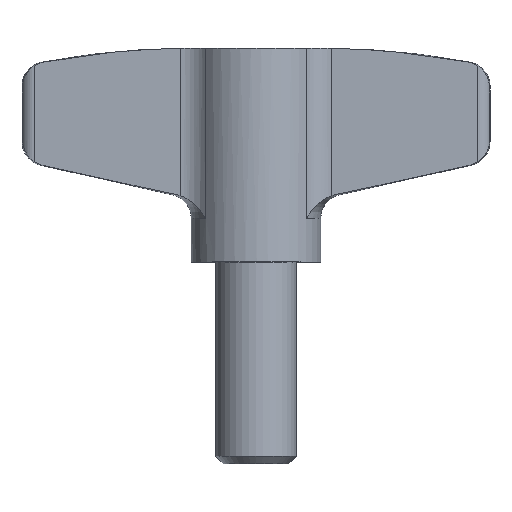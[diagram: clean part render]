
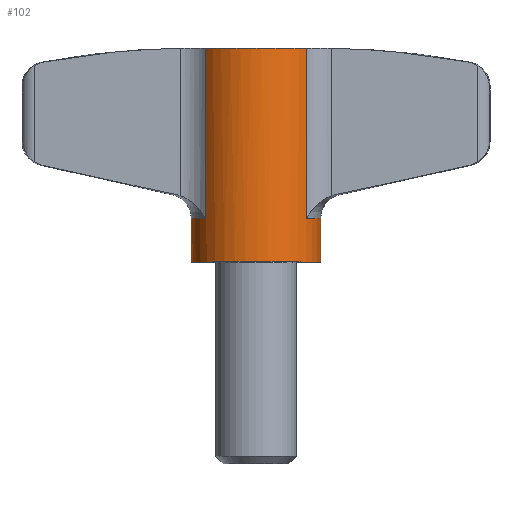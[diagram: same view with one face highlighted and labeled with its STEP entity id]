
A CAD part, top view. The second image highlights one B-rep face of the part: STEP entity #102.
In plain terms, the highlighted cylindrical face has radius 8 mm (diameter 16 mm), a full revolution.
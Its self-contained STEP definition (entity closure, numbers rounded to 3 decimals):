
#102 = ADVANCED_FACE( '', ( #163, #164 ), #165, .T. );
#163 = FACE_OUTER_BOUND( '', #271, .T. );
#164 = FACE_OUTER_BOUND( '', #272, .T. );
#165 = CYLINDRICAL_SURFACE( '', #273, 8. );
#271 = EDGE_LOOP( '', ( #477, #478, #479, #480, #481, #482, #483, #484 ) );
#272 = EDGE_LOOP( '', ( #485 ) );
#273 = AXIS2_PLACEMENT_3D( '', #486, #487, #488 );
#477 = ORIENTED_EDGE( '', *, *, #537, .T. );
#478 = ORIENTED_EDGE( '', *, *, #570, .T. );
#479 = ORIENTED_EDGE( '', *, *, #577, .F. );
#480 = ORIENTED_EDGE( '', *, *, #566, .F. );
#481 = ORIENTED_EDGE( '', *, *, #512, .T. );
#482 = ORIENTED_EDGE( '', *, *, #509, .T. );
#483 = ORIENTED_EDGE( '', *, *, #541, .F. );
#484 = ORIENTED_EDGE( '', *, *, #564, .F. );
#485 = ORIENTED_EDGE( '', *, *, #562, .T. );
#486 = CARTESIAN_POINT( '', ( 0., 26.5, 0. ) );
#487 = DIRECTION( '', ( 0., 1., 0. ) );
#488 = DIRECTION( '', ( 0., 0., -1. ) );
#509 = EDGE_CURVE( '', #585, #583, #586, .T. );
#512 = EDGE_CURVE( '', #590, #585, #591, .T. );
#537 = EDGE_CURVE( '', #637, #635, #638, .T. );
#541 = EDGE_CURVE( '', #642, #583, #644, .T. );
#562 = EDGE_CURVE( '', #677, #677, #678, .T. );
#564 = EDGE_CURVE( '', #637, #642, #681, .T. );
#566 = EDGE_CURVE( '', #590, #679, #683, .T. );
#570 = EDGE_CURVE( '', #635, #688, #690, .T. );
#577 = EDGE_CURVE( '', #679, #688, #697, .T. );
#583 = VERTEX_POINT( '', #707 );
#585 = VERTEX_POINT( '', #720 );
#586 = CIRCLE( '', #721, 8. );
#590 = VERTEX_POINT( '', #742 );
#591 = LINE( '', #743, #744 );
#635 = VERTEX_POINT( '', #899 );
#637 = VERTEX_POINT( '', #914 );
#638 = LINE( '', #915, #916 );
#642 = VERTEX_POINT( '', #930 );
#644 = LINE( '', #941, #942 );
#677 = VERTEX_POINT( '', #1073 );
#678 = CIRCLE( '', #1074, 8. );
#679 = VERTEX_POINT( '', #1075 );
#681 = CIRCLE( '', #1077, 8. );
#683 = CIRCLE( '', #1079, 8. );
#688 = VERTEX_POINT( '', #1084 );
#690 = CIRCLE( '', #1097, 8. );
#697 = LINE( '', #1128, #1129 );
#707 = CARTESIAN_POINT( '', ( -6.245, 5.397, -5. ) );
#720 = CARTESIAN_POINT( '', ( -6.245, 5.397, 5. ) );
#721 = AXIS2_PLACEMENT_3D( '', #1133, #1134, #1135 );
#742 = CARTESIAN_POINT( '', ( -6.245, 26.5, 5. ) );
#743 = CARTESIAN_POINT( '', ( -6.245, 26.5, 5. ) );
#744 = VECTOR( '', #1136, 1000. );
#899 = CARTESIAN_POINT( '', ( 6.245, 5.397, -5. ) );
#914 = CARTESIAN_POINT( '', ( 6.245, 26.5, -5. ) );
#915 = CARTESIAN_POINT( '', ( 6.245, 26.5, -5. ) );
#916 = VECTOR( '', #1154, 1000. );
#930 = CARTESIAN_POINT( '', ( -6.245, 26.5, -5. ) );
#941 = CARTESIAN_POINT( '', ( -6.245, 26.5, -5. ) );
#942 = VECTOR( '', #1156, 1000. );
#1073 = CARTESIAN_POINT( '', ( 8., 0., 0. ) );
#1074 = AXIS2_PLACEMENT_3D( '', #1172, #1173, #1174 );
#1075 = CARTESIAN_POINT( '', ( 6.245, 26.5, 5. ) );
#1077 = AXIS2_PLACEMENT_3D( '', #1178, #1179, #1180 );
#1079 = AXIS2_PLACEMENT_3D( '', #1184, #1185, #1186 );
#1084 = CARTESIAN_POINT( '', ( 6.245, 5.397, 5. ) );
#1097 = AXIS2_PLACEMENT_3D( '', #1193, #1194, #1195 );
#1128 = CARTESIAN_POINT( '', ( 6.245, 26.5, 5. ) );
#1129 = VECTOR( '', #1205, 1000. );
#1133 = CARTESIAN_POINT( '', ( 0., 5.397, 0. ) );
#1134 = DIRECTION( '', ( 0., -1., 0. ) );
#1135 = DIRECTION( '', ( 0., 0., -1. ) );
#1136 = DIRECTION( '', ( 0., -1., 0. ) );
#1154 = DIRECTION( '', ( 0., -1., 0. ) );
#1156 = DIRECTION( '', ( 0., -1., 0. ) );
#1172 = CARTESIAN_POINT( '', ( 0., 0., 0. ) );
#1173 = DIRECTION( '', ( 0., 1., 0. ) );
#1174 = DIRECTION( '', ( 1., 0., 0. ) );
#1178 = CARTESIAN_POINT( '', ( 0., 26.5, 0. ) );
#1179 = DIRECTION( '', ( 0., 1., 0. ) );
#1180 = DIRECTION( '', ( 1., 0., 0. ) );
#1184 = CARTESIAN_POINT( '', ( 0., 26.5, 0. ) );
#1185 = DIRECTION( '', ( 0., 1., 0. ) );
#1186 = DIRECTION( '', ( 1., 0., 0. ) );
#1193 = CARTESIAN_POINT( '', ( 0., 5.397, 0. ) );
#1194 = DIRECTION( '', ( 0., -1., 0. ) );
#1195 = DIRECTION( '', ( 0., 0., -1. ) );
#1205 = DIRECTION( '', ( 0., -1., 0. ) );
